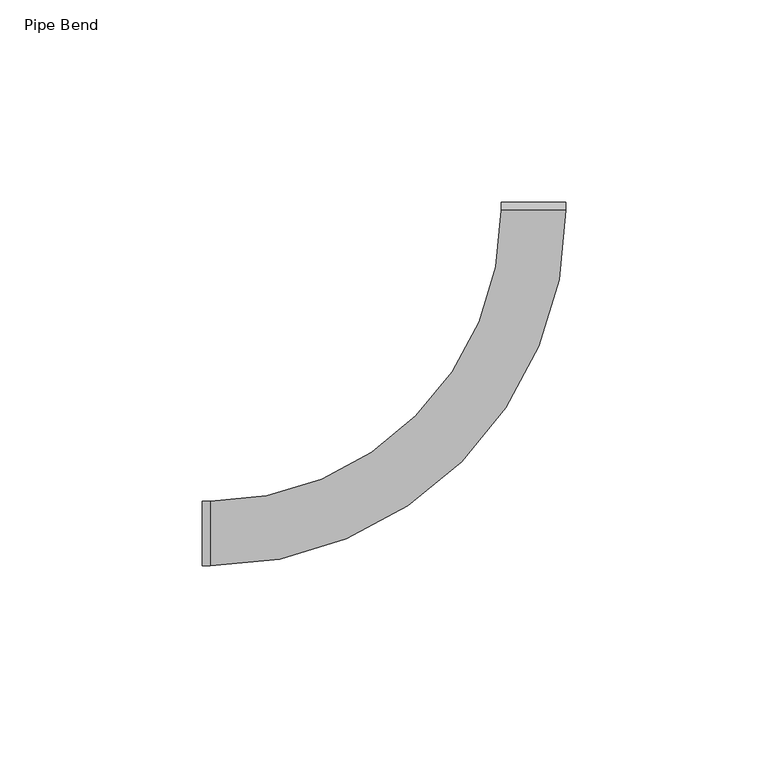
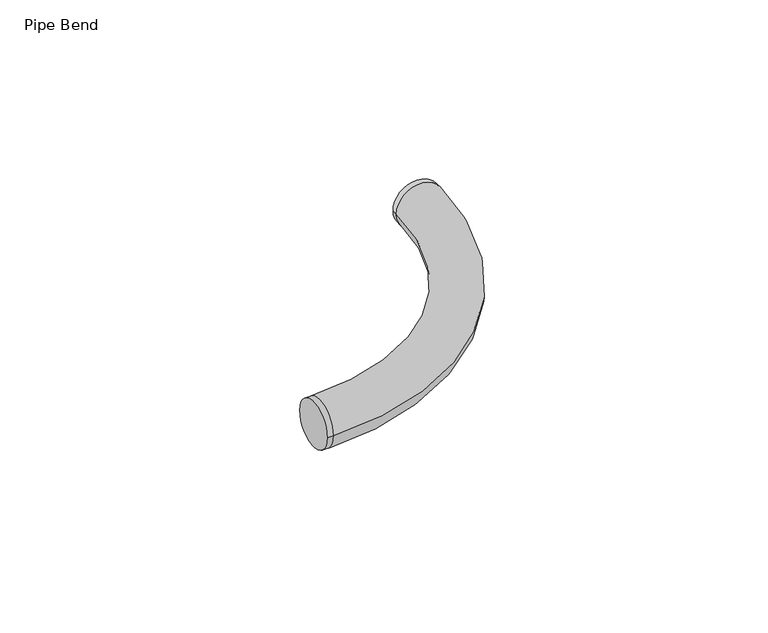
"""IFC4 building model written with IfcOpenShell, lengths in millimetres: pipe fitting geometry, Pipe Bend : Superpipe 2-MAX Pipe bend."""

from ifc_helpers import new_model, si_unit, point, frame, origin, place, context, project, spatial, circle_curve, ellipse_curve, trimmed, source, transform, mapped, element, save
from ifc_brep_helpers import plane_surface, cylinder_surface, revolved_surface, advanced_brep


def pipe_bend_eb0728c1(model_context):
    return source(origin(), model_context, "Body", "AdvancedBrep", [
        advanced_brep(
        [(-82.0, -8.0, 0.0), (-82.0, 8.0, 0.0), (-80.0, -8.0, 0.0), (-80.0, 8.0, 0.0), (-8.0, 80.0, 0.0), (8.0, 80.0, 0.0), (0.0, 80.0, 8.0), (0.0, 80.0, -8.0), (8.0, 82.0, 0.0), (-8.0, 82.0, 0.0)],
        [
            (0, 1, circle_curve(frame((-82.0, 0.0, 0.0), z_axis=(-1.0, 0.0, 0.0), x_axis=(0.0, 1.0, 0.0)), 8.0)),
            (1, 0, circle_curve(frame((-82.0, 0.0, 0.0), z_axis=(-1.0, 0.0, 0.0), x_axis=(0.0, 1.0, 0.0)), 8.0)),
            (0, 2),
            (2, 3, circle_curve(frame((-80.0, 0.0, 0.0), z_axis=(-1.0, 0.0, 0.0), x_axis=(0.0, 1.0, 0.0)), 8.0)),
            (3, 1),
            (3, 2, circle_curve(frame((-80.0, 0.0, 0.0), z_axis=(-1.0, 0.0, 0.0), x_axis=(0.0, 1.0, 0.0)), 8.0)),
            (4, 3, circle_curve(frame((-80.0, 80.0, 0.0), z_axis=(0.0, 0.0, -1.0), x_axis=(0.0, -1.0, 0.0)), 72.0)),
            (2, 5, circle_curve(frame((-80.0, 80.0, 0.0), z_axis=(0.0, 0.0, 1.0), x_axis=(0.0, -1.0, 0.0)), 88.0)),
            (5, 6, circle_curve(frame((0.0, 80.0, 0.0), z_axis=(0.0, -1.0, 0.0), x_axis=(-1.0, 0.0, 0.0)), 8.0)),
            (6, 4, circle_curve(frame((0.0, 80.0, 0.0), z_axis=(0.0, -1.0, 0.0), x_axis=(-1.0, 0.0, 0.0)), 8.0)),
            (4, 7, circle_curve(frame((0.0, 80.0, 0.0), z_axis=(0.0, -1.0, 0.0), x_axis=(-1.0, 0.0, 0.0)), 8.0)),
            (7, 5, circle_curve(frame((0.0, 80.0, 0.0), z_axis=(0.0, -1.0, 0.0), x_axis=(-1.0, 0.0, 0.0)), 8.0)),
            (8, 9, circle_curve(frame((0.0, 82.0, 0.0), z_axis=(0.0, 1.0, 0.0), x_axis=(-1.0, 0.0, 0.0)), 8.0)),
            (9, 8, circle_curve(frame((0.0, 82.0, 0.0), z_axis=(0.0, 1.0, 0.0), x_axis=(-1.0, 0.0, 0.0)), 8.0)),
            (9, 4),
            (5, 8),
        ],
        [
            plane_surface(frame((-82.0, 0.0, 0.0), z_axis=(-1.0, 0.0, 0.0), x_axis=(0.0, 0.0, 1.0))),
            cylinder_surface(frame((-82.0, 0.0, 0.0), z_axis=(-1.0, 0.0, 0.0), x_axis=(0.0, 1.0, 0.0)), 8.0),
            revolved_surface(trimmed(ellipse_curve(frame((-80.0, 0.0, 0.0), z_axis=(-1.0, 0.0, 0.0), x_axis=(0.0, 1.0, 0.0)), 8.0, 8.0), [point((-80.0, -8.0, 0.0))], [point((-80.0, 8.0, 0.0))], True, "CARTESIAN"), (-80.0, 80.0, 0.0), (0.0, 0.0, 1.0)),
            revolved_surface(trimmed(ellipse_curve(frame((-80.0, 0.0, 0.0), z_axis=(-1.0, 0.0, 0.0), x_axis=(0.0, 1.0, 0.0)), 8.0, 8.0), [point((-80.0, 8.0, 0.0))], [point((-80.0, -8.0, 0.0))], True, "CARTESIAN"), (-80.0, 80.0, 0.0), (0.0, 0.0, 1.0)),
            plane_surface(frame((0.0, 82.0, 0.0), z_axis=(0.0, 1.0, 0.0), x_axis=(0.0, 0.0, 1.0))),
            cylinder_surface(frame((0.0, 80.0, 0.0), z_axis=(0.0, -1.0, 0.0), x_axis=(-1.0, 0.0, 0.0)), 8.0),
        ],
        [
            (0, [[1, 2]]),
            (1, [[-1, 3, 4, 5]]),
            (1, [[-2, -5, 6, -3]]),
            (2, [[7, -4, 8, 9, 10]]),
            (3, [[-7, 11, 12, -8, -6]]),
            (4, [[13, 14]]),
            (5, [[-14, 15, -10, -9, 16]]),
            (5, [[-13, -16, -12, -11, -15]]),
        ],
    ),
    ])


if __name__ == "__main__":
    model = new_model("IFC4")
    model_context = context("Model", 3, world=origin())
    ifc_project = project(units=[si_unit("LENGTHUNIT", "METRE", prefix="MILLI")], contexts=[model_context])
    site = spatial("IfcSite", under=ifc_project)
    building = spatial("IfcBuilding", under=site)
    placement = place(None, origin())
    pipe_bend_shape = pipe_bend_eb0728c1(model_context)
    element("IfcPipeFitting", 1, ObjectType="Pipe Bend : Superpipe 2-MAX Pipe bend", at=placement, inside=building, context=model_context, shape_type="MappedRepresentation", body=[
        mapped(pipe_bend_shape, transform((0.0, 0.0, 0.0), x_axis=(1.0, 0.0, 0.0), y_axis=(0.0, 1.0, 0.0), z_axis=(0.0, 0.0, 1.0))),
    ])
    save(model, "model.ifc")
